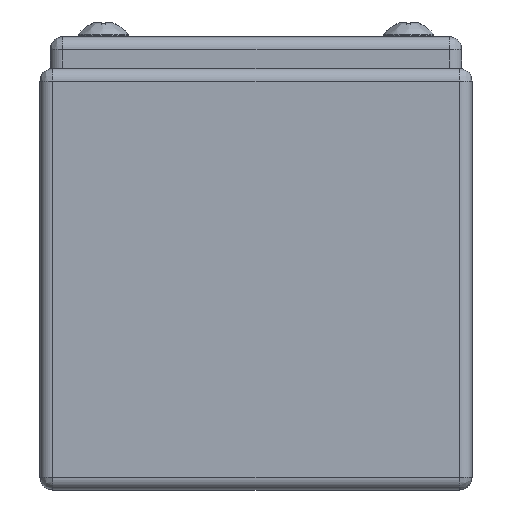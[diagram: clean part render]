
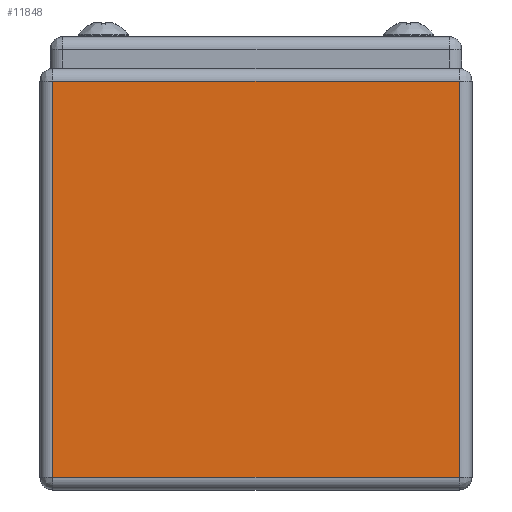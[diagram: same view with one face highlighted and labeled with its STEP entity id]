
A CAD part, front view. The second image highlights one B-rep face of the part: STEP entity #11848.
In plain terms, the highlighted planar face has unit normal (0, -1, 0).
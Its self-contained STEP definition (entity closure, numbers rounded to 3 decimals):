
#292 = CARTESIAN_POINT ( 'NONE',  ( 79.6, 0., 78.8 ) ) ;
#1412 = CARTESIAN_POINT ( 'NONE',  ( 2.4, 0., 77.6 ) ) ;
#1850 = VECTOR ( 'NONE', #14278, 1000. ) ;
#2170 = ORIENTED_EDGE ( 'NONE', *, *, #14053, .F. ) ;
#2854 = LINE ( 'NONE', #292, #1850 ) ;
#3367 = CARTESIAN_POINT ( 'NONE',  ( 0., 0., 2.4 ) ) ;
#3547 = ORIENTED_EDGE ( 'NONE', *, *, #11170, .F. ) ;
#3732 = CARTESIAN_POINT ( 'NONE',  ( 0., 0., 78.8 ) ) ;
#4850 = VECTOR ( 'NONE', #17871, 1000. ) ;
#6479 = VERTEX_POINT ( 'NONE', #13417 ) ;
#6795 = ORIENTED_EDGE ( 'NONE', *, *, #13214, .F. ) ;
#6897 = DIRECTION ( 'NONE',  ( 0., 0., 1. ) ) ;
#6926 = CARTESIAN_POINT ( 'NONE',  ( 2.4, 0., 78.8 ) ) ;
#7825 = VERTEX_POINT ( 'NONE', #1412 ) ;
#7909 = DIRECTION ( 'NONE',  ( 1., 0., 0. ) ) ;
#8346 = LINE ( 'NONE', #3367, #10804 ) ;
#9393 = CARTESIAN_POINT ( 'NONE',  ( 79.6, 0., 77.6 ) ) ;
#9481 = LINE ( 'NONE', #6926, #4850 ) ;
#10270 = VECTOR ( 'NONE', #7909, 1000. ) ;
#10474 = EDGE_LOOP ( 'NONE', ( #2170, #6795, #17634, #3547 ) ) ;
#10804 = VECTOR ( 'NONE', #12814, 1000. ) ;
#11170 = EDGE_CURVE ( 'NONE', #15250, #6479, #8346, .T. ) ;
#11566 = AXIS2_PLACEMENT_3D ( 'NONE', #3732, #16262, #6897 ) ;
#11848 = ADVANCED_FACE ( 'NONE', ( #18623 ), #13108, .F. ) ;
#12814 = DIRECTION ( 'NONE',  ( -1., 0., 0. ) ) ;
#13108 = PLANE ( 'NONE',  #11566 ) ;
#13214 = EDGE_CURVE ( 'NONE', #7825, #16568, #15694, .T. ) ;
#13417 = CARTESIAN_POINT ( 'NONE',  ( 2.4, 0., 2.4 ) ) ;
#14053 = EDGE_CURVE ( 'NONE', #16568, #15250, #2854, .T. ) ;
#14278 = DIRECTION ( 'NONE',  ( 0., 0., -1. ) ) ;
#15250 = VERTEX_POINT ( 'NONE', #18042 ) ;
#15694 = LINE ( 'NONE', #17106, #10270 ) ;
#16262 = DIRECTION ( 'NONE',  ( 0., 1., 0. ) ) ;
#16568 = VERTEX_POINT ( 'NONE', #9393 ) ;
#17106 = CARTESIAN_POINT ( 'NONE',  ( 0., 0., 77.6 ) ) ;
#17544 = EDGE_CURVE ( 'NONE', #6479, #7825, #9481, .T. ) ;
#17634 = ORIENTED_EDGE ( 'NONE', *, *, #17544, .F. ) ;
#17871 = DIRECTION ( 'NONE',  ( 0., 0., 1. ) ) ;
#18042 = CARTESIAN_POINT ( 'NONE',  ( 79.6, 0., 2.4 ) ) ;
#18623 = FACE_OUTER_BOUND ( 'NONE', #10474, .T. ) ;
